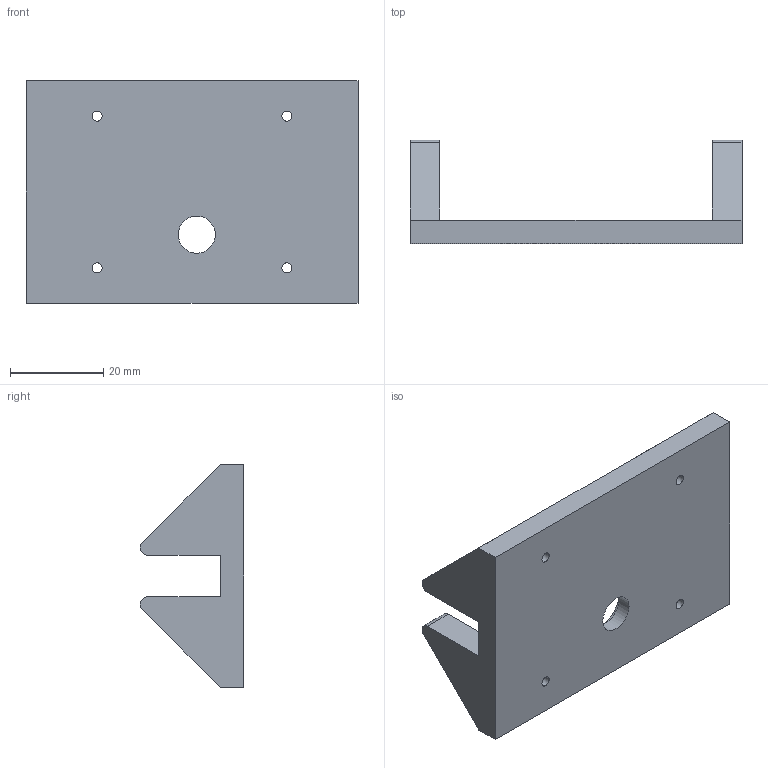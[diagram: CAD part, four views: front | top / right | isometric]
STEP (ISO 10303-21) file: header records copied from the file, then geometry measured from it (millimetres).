
FILE_DESCRIPTION(/* description */ (''),/* implementation_level */ '2;1');
FILE_NAME(/* name */ 'C:/Users/Drew Hildbrand/Downloads/Xometry CNC Mill Test Part Package/Mill Test Part REV 07 v1.step',/* time_stamp */ '2022-01-26T04:12:16-07:00',/* author */ (''),/* organization */ (''),/* preprocessor_version */ 'ST-DEVELOPER v18.1',/* originating_system */ 'Autodesk Translation Framework v10.10.0.1391',/* authorisation */ '');
FILE_SCHEMA (('AUTOMOTIVE_DESIGN { 1 0 10303 214 3 1 1 }'));
Length unit declared in the file: inch
Products named in the file (1): Mill Test Part REV 07
Bounding box: 71.12 x 22.17 x 47.75 mm (x, y, z)
Volume: 21263.5 mm3; surface area: 10221 mm2
Topology: 1 solids, 1 shells, 29 faces, 74 edges, 48 vertices
Faces by surface type: plane 19, cylinder 10
Full cylindrical faces by diameter (mm): 2.156 x4, 7.95 x1, 12.065 x1
Entity records: 938 total; most frequent: DIRECTION 154, CARTESIAN_POINT 152, ORIENTED_EDGE 148, EDGE_CURVE 74, LINE 54, VECTOR 54, AXIS2_PLACEMENT_3D 50, VERTEX_POINT 48
